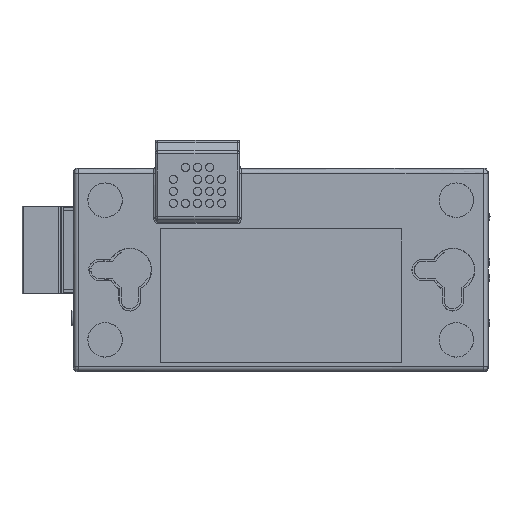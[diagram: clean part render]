
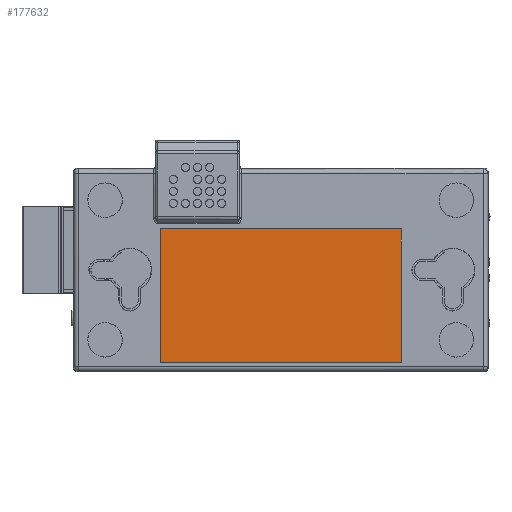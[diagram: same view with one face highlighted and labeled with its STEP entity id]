
A CAD part, front view. The second image highlights one B-rep face of the part: STEP entity #177632.
In plain terms, the highlighted free-form (B-spline) face has degree [1, 1] with [2, 2] control points.
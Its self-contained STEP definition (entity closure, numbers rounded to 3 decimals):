
#6848 = FACE_OUTER_BOUND ( 'NONE', #158240, .T. ) ;
#16413 = CARTESIAN_POINT ( 'NONE',  ( 28.005, 0.2, 5.535 ) ) ;
#20667 = CARTESIAN_POINT ( 'NONE',  ( 28.005, 0.2, 5.535 ) ) ;
#22063 = CARTESIAN_POINT ( 'NONE',  ( 28.005, 0.2, 5.535 ) ) ;
#32218 = VERTEX_POINT ( 'NONE', #52817 ) ;
#41975 = ORIENTED_EDGE ( 'NONE', *, *, #64019, .F. ) ;
#48270 = CARTESIAN_POINT ( 'NONE',  ( -28.005, 0.2, 5.535 ) ) ;
#52817 = CARTESIAN_POINT ( 'NONE',  ( 28.005, 0.2, -25.475 ) ) ;
#57795 = B_SPLINE_SURFACE_WITH_KNOTS ( 'NONE', 1, 1, ( 
 ( #146636, #20667 ),
 ( #76693, #97744 ) ),
 .UNSPECIFIED., .F., .F., .F.,
 ( 2, 2 ),
 ( 2, 2 ),
 ( 0., 1. ),
 ( 0., 1. ),
 .UNSPECIFIED. ) ;
#64019 = EDGE_CURVE ( 'NONE', #118350, #32218, #105127, .T. ) ;
#76693 = CARTESIAN_POINT ( 'NONE',  ( -28.005, 0.2, -25.475 ) ) ;
#78542 = CARTESIAN_POINT ( 'NONE',  ( -28.005, 0.2, -25.475 ) ) ;
#80529 = EDGE_CURVE ( 'NONE', #32218, #126450, #160483, .T. ) ;
#87210 = CARTESIAN_POINT ( 'NONE',  ( 28.005, 0.2, -25.475 ) ) ;
#90881 = CARTESIAN_POINT ( 'NONE',  ( -28.005, 0.2, 5.535 ) ) ;
#91042 = ORIENTED_EDGE ( 'NONE', *, *, #117584, .F. ) ;
#97744 = CARTESIAN_POINT ( 'NONE',  ( 28.005, 0.2, -25.475 ) ) ;
#100120 = CARTESIAN_POINT ( 'NONE',  ( -28.005, 0.2, -25.475 ) ) ;
#104590 = B_SPLINE_CURVE_WITH_KNOTS ( 'NONE', 1,
 ( #100120, #156247 ),
 .UNSPECIFIED., .F., .F.,
 ( 2, 2 ),
 ( 0., 1. ),
 .UNSPECIFIED. ) ;
#105127 = B_SPLINE_CURVE_WITH_KNOTS ( 'NONE', 1,
 ( #16413, #171789 ),
 .UNSPECIFIED., .F., .F.,
 ( 2, 2 ),
 ( 0., 1. ),
 .UNSPECIFIED. ) ;
#106986 = VERTEX_POINT ( 'NONE', #90881 ) ;
#117584 = EDGE_CURVE ( 'NONE', #106986, #118350, #138911, .T. ) ;
#118350 = VERTEX_POINT ( 'NONE', #22063 ) ;
#126450 = VERTEX_POINT ( 'NONE', #78542 ) ;
#127482 = ORIENTED_EDGE ( 'NONE', *, *, #80529, .F. ) ;
#131899 = CARTESIAN_POINT ( 'NONE',  ( 28.005, 0.2, 5.535 ) ) ;
#132714 = EDGE_CURVE ( 'NONE', #126450, #106986, #104590, .T. ) ;
#133795 = ORIENTED_EDGE ( 'NONE', *, *, #132714, .F. ) ;
#138911 = B_SPLINE_CURVE_WITH_KNOTS ( 'NONE', 1,
 ( #48270, #131899 ),
 .UNSPECIFIED., .F., .F.,
 ( 2, 2 ),
 ( 0., 1. ),
 .UNSPECIFIED. ) ;
#144257 = CARTESIAN_POINT ( 'NONE',  ( -28.005, 0.2, -25.475 ) ) ;
#146636 = CARTESIAN_POINT ( 'NONE',  ( -28.005, 0.2, 5.535 ) ) ;
#156247 = CARTESIAN_POINT ( 'NONE',  ( -28.005, 0.2, 5.535 ) ) ;
#158240 = EDGE_LOOP ( 'NONE', ( #41975, #91042, #133795, #127482 ) ) ;
#160483 = B_SPLINE_CURVE_WITH_KNOTS ( 'NONE', 1,
 ( #87210, #144257 ),
 .UNSPECIFIED., .F., .F.,
 ( 2, 2 ),
 ( 0., 1. ),
 .UNSPECIFIED. ) ;
#171789 = CARTESIAN_POINT ( 'NONE',  ( 28.005, 0.2, -25.475 ) ) ;
#177632 = ADVANCED_FACE ( 'NONE', ( #6848 ), #57795, .T. ) ;
